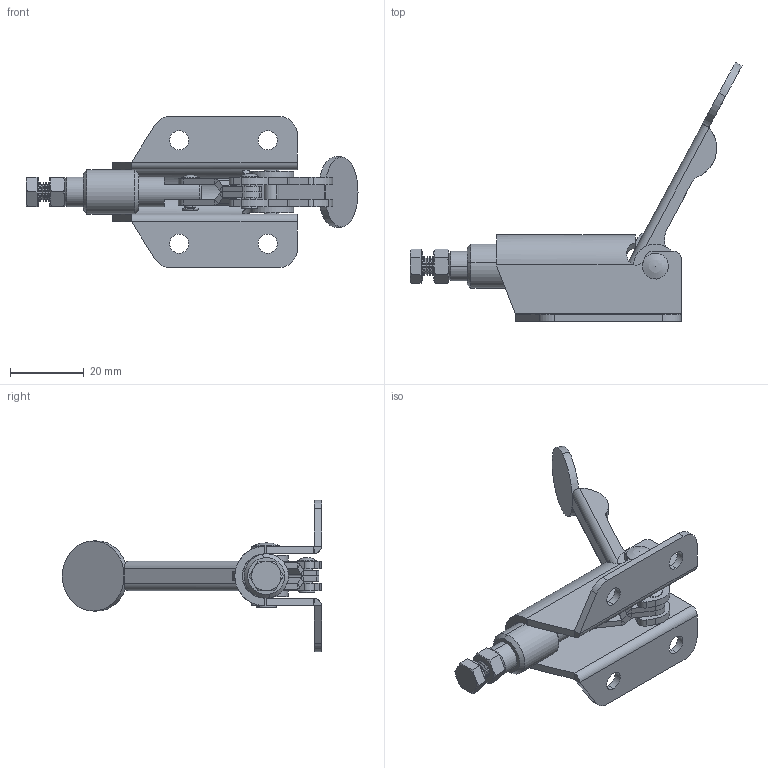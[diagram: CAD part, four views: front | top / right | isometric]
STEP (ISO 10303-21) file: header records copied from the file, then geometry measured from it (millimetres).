
FILE_DESCRIPTION (( 'STEP AP214' ), '1' );
FILE_NAME ('ISK-070.STEP', '2015-07-31T01:20:10', ( '' ), ( '' ), 'SwSTEP 2.0', 'SolidWorks 2015', '' );
FILE_SCHEMA (( 'AUTOMOTIVE_DESIGN' ));
Length unit declared in the file: millimetre
Products named in the file (11): Handle; continuous thread hexagon head bolt_a_jis_JIS B 1180 Continuous thread hexagon head bolt A M5 x 16 --S; Rivet_Φ4×16; Link; Base; Arm; Guide; Washer; hexagon nut_2_jis_JIS B 1181 Hexagon nut - Class 2 Finished M5 --N; Rivet_兂3亊8; ISK-070
Assembly tree (13 placements, depth 2):
  ISK-070
    Base
    Arm
    Guide
    Handle
    Link  x2
    Rivet_兂3亊8  x2
    Rivet_Φ4×16
    Washer  x2
    continuous thread hexagon head bolt_a_jis_JIS B 1180 Continuous thread hexagon head bolt A M5 x 16 --S
    hexagon nut_2_jis_JIS B 1181 Hexagon nut - Class 2 Finished M5 --N
Bounding box: 89.95 x 70.23 x 41 mm (x, y, z)
Volume: 13013.8 mm3; surface area: 15116 mm2
Topology: 13 solids, 13 shells, 421 faces, 1000 edges, 609 vertices
Faces by surface type: cylinder 156, plane 130, cone 112, torus 14, bspline 6, sphere 3
Entity records: 12046 total; most frequent: CARTESIAN_POINT 2565, DIRECTION 2060, ORIENTED_EDGE 1792, EDGE_CURVE 896, AXIS2_PLACEMENT_3D 834, VERTEX_POINT 547, CIRCLE 448, EDGE_LOOP 415
